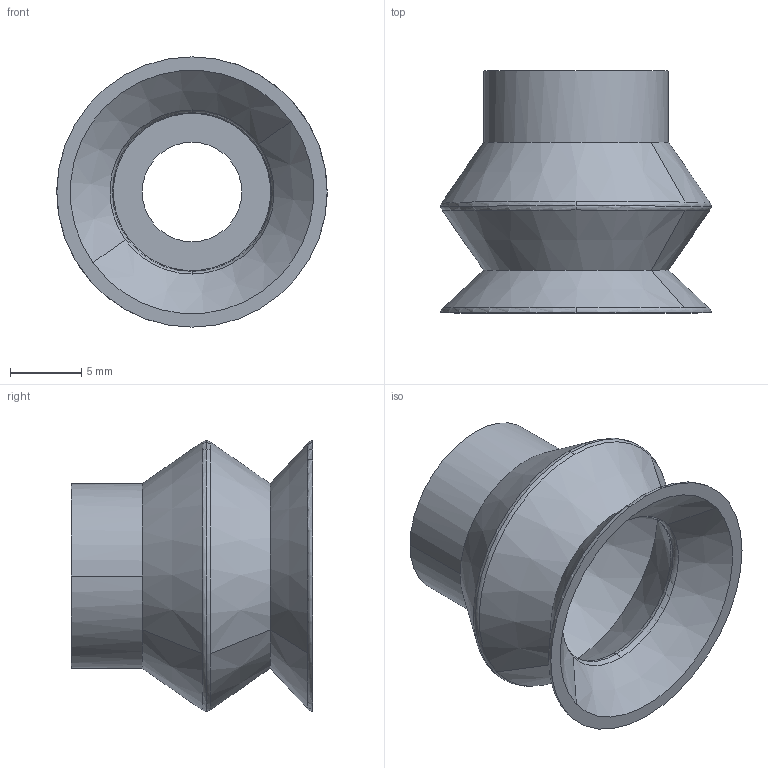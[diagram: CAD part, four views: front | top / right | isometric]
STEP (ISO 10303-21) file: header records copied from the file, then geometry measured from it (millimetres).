
FILE_DESCRIPTION (( 'STEP AP214' ), '1' );
FILE_NAME ('15B.019.002.STEP', '2026-07-20T13:45:01', ( '' ), ( '' ), 'SwSTEP 2.0', 'SolidWorks 2025', '' );
FILE_SCHEMA (( 'AUTOMOTIVE_DESIGN' ));
Length unit declared in the file: millimetre
Products named in the file (1): 15B.019.002
Bounding box: 19 x 17 x 19 mm (x, y, z)
Volume: 1049.3 mm3; surface area: 1957.8 mm2
Topology: 1 solids, 1 shells, 29 faces, 70 edges, 44 vertices
Faces by surface type: cone 12, torus 10, cylinder 4, plane 3
Entity records: 901 total; most frequent: DIRECTION 184, CARTESIAN_POINT 144, ORIENTED_EDGE 140, AXIS2_PLACEMENT_3D 84, EDGE_CURVE 70, CIRCLE 54, VERTEX_POINT 44, EDGE_LOOP 32
